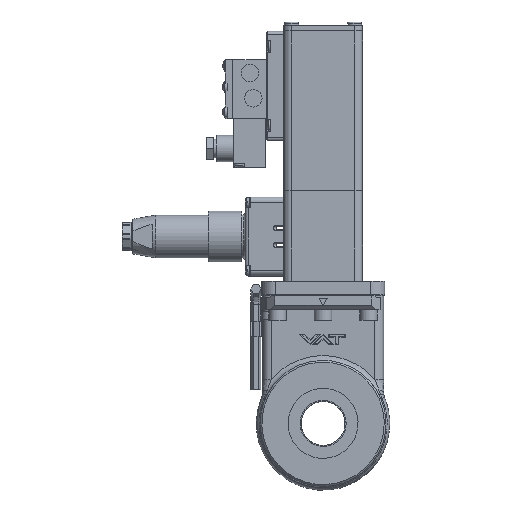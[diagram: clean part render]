
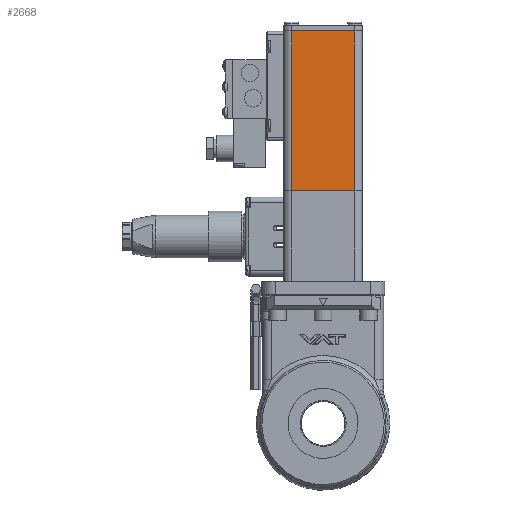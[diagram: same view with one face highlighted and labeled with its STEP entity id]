
A CAD part, top view. The second image highlights one B-rep face of the part: STEP entity #2668.
In plain terms, the highlighted planar face has unit normal (0, 0, 1).
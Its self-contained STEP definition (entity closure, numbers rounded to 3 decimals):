
#2668 = ADVANCED_FACE( '', ( #5883 ), #5884, .T. );
#5883 = FACE_OUTER_BOUND( '', #10981, .T. );
#5884 = PLANE( '', #10982 );
#10981 = EDGE_LOOP( '', ( #18650, #18651, #18652, #18653 ) );
#10982 = AXIS2_PLACEMENT_3D( '', #18654, #18655, #18656 );
#18650 = ORIENTED_EDGE( '', *, *, #28608, .T. );
#18651 = ORIENTED_EDGE( '', *, *, #27731, .F. );
#18652 = ORIENTED_EDGE( '', *, *, #28609, .F. );
#18653 = ORIENTED_EDGE( '', *, *, #28610, .T. );
#18654 = CARTESIAN_POINT( '', ( 91.1, 18., 22.5 ) );
#18655 = DIRECTION( '', ( 0., 0., 1. ) );
#18656 = DIRECTION( '', ( 1., 0., 0. ) );
#27731 = EDGE_CURVE( '', #32570, #32566, #32572, .T. );
#28608 = EDGE_CURVE( '', #34012, #32566, #34013, .T. );
#28609 = EDGE_CURVE( '', #34014, #32570, #34015, .T. );
#28610 = EDGE_CURVE( '', #34014, #34012, #34016, .T. );
#32566 = VERTEX_POINT( '', #40038 );
#32570 = VERTEX_POINT( '', #40043 );
#32572 = LINE( '', #40045, #40046 );
#34012 = VERTEX_POINT( '', #42544 );
#34013 = LINE( '', #42545, #42546 );
#34014 = VERTEX_POINT( '', #42547 );
#34015 = LINE( '', #42548, #42549 );
#34016 = LINE( '', #42550, #42551 );
#40038 = CARTESIAN_POINT( '', ( 0., -18., 22.5 ) );
#40043 = CARTESIAN_POINT( '', ( 91.1, -18., 22.5 ) );
#40045 = CARTESIAN_POINT( '', ( 91.1, -18., 22.5 ) );
#40046 = VECTOR( '', #49142, 1000. );
#42544 = CARTESIAN_POINT( '', ( 0., 18., 22.5 ) );
#42545 = CARTESIAN_POINT( '', ( 0., 18., 22.5 ) );
#42546 = VECTOR( '', #50161, 1000. );
#42547 = CARTESIAN_POINT( '', ( 91.1, 18., 22.5 ) );
#42548 = CARTESIAN_POINT( '', ( 91.1, 18., 22.5 ) );
#42549 = VECTOR( '', #50162, 1000. );
#42550 = CARTESIAN_POINT( '', ( 91.1, 18., 22.5 ) );
#42551 = VECTOR( '', #50163, 1000. );
#49142 = DIRECTION( '', ( -1., 0., 0. ) );
#50161 = DIRECTION( '', ( 0., -1., 0. ) );
#50162 = DIRECTION( '', ( 0., -1., 0. ) );
#50163 = DIRECTION( '', ( -1., 0., 0. ) );
